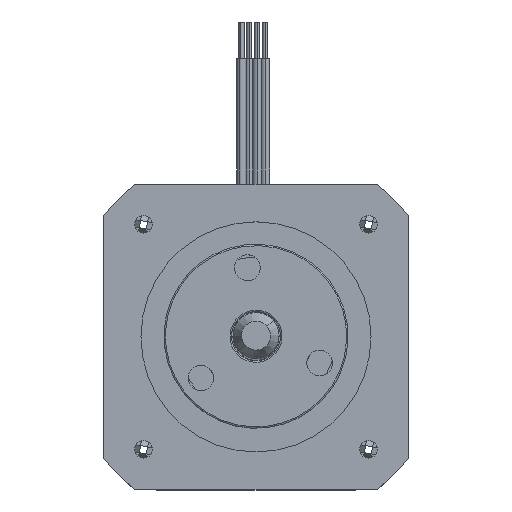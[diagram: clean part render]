
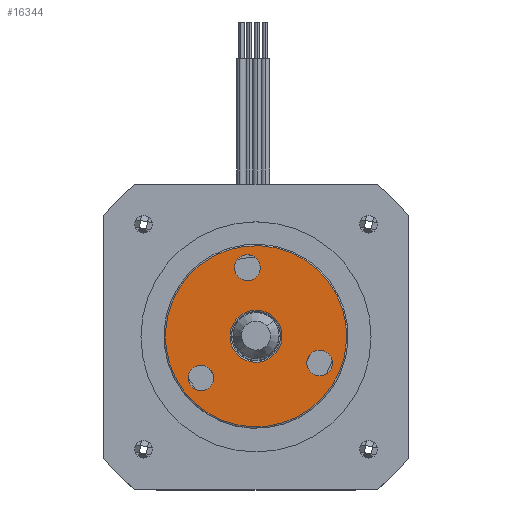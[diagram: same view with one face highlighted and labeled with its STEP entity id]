
A CAD part, top view. The second image highlights one B-rep face of the part: STEP entity #16344.
In plain terms, the highlighted planar face has unit normal (0, 0, 1).
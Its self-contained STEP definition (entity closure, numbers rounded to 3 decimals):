
#241 = ORIENTED_EDGE ( 'NONE', *, *, #18800, .T. ) ;
#318 = ORIENTED_EDGE ( 'NONE', *, *, #18589, .T. ) ;
#568 = ORIENTED_EDGE ( 'NONE', *, *, #18567, .T. ) ;
#594 = ORIENTED_EDGE ( 'NONE', *, *, #18140, .T. ) ;
#655 = ORIENTED_EDGE ( 'NONE', *, *, #18485, .T. ) ;
#664 = ORIENTED_EDGE ( 'NONE', *, *, #18493, .T. ) ;
#698 = ORIENTED_EDGE ( 'NONE', *, *, #18375, .T. ) ;
#1018 = ORIENTED_EDGE ( 'NONE', *, *, #18486, .T. ) ;
#1082 = ORIENTED_EDGE ( 'NONE', *, *, #18645, .T. ) ;
#1129 = ORIENTED_EDGE ( 'NONE', *, *, #18576, .T. ) ;
#2336 = CARTESIAN_POINT ( 'NONE',  ( 11.62, -4.039, 76.184 ) ) ;
#2568 = CARTESIAN_POINT ( 'NONE',  ( -1.877, 8.666, 76.184 ) ) ;
#2569 = CARTESIAN_POINT ( 'NONE',  ( -4.75, -6.095, 76.184 ) ) ;
#2596 = CARTESIAN_POINT ( 'NONE',  ( 8.087, -4.483, 76.184 ) ) ;
#2627 = CARTESIAN_POINT ( 'NONE',  ( 1.655, 9.109, 76.184 ) ) ;
#2632 = CARTESIAN_POINT ( 'NONE',  ( 13.478, 0.994, 76.184 ) ) ;
#2635 = CARTESIAN_POINT ( 'NONE',  ( 4.638, -0.116, 76.184 ) ) ;
#2640 = CARTESIAN_POINT ( 'NONE',  ( -11.327, -2.121, 76.184 ) ) ;
#2661 = CARTESIAN_POINT ( 'NONE',  ( -8.282, -6.538, 76.184 ) ) ;
#3366 = CARTESIAN_POINT ( 'NONE',  ( -6.516, -6.317, 76.184 ) ) ;
#3373 = DIRECTION ( 'NONE',  ( 0., 0., -1. ) ) ;
#3374 = DIRECTION ( 'NONE',  ( -0.992, -0.125, 0. ) ) ;
#3706 = CARTESIAN_POINT ( 'NONE',  ( 1.076, -0.563, 76.184 ) ) ;
#3707 = DIRECTION ( 'NONE',  ( 0., 0., 1. ) ) ;
#3708 = DIRECTION ( 'NONE',  ( -0.992, -0.125, 0. ) ) ;
#3709 = CARTESIAN_POINT ( 'NONE',  ( 9.854, -4.261, 76.184 ) ) ;
#3710 = DIRECTION ( 'NONE',  ( 0., 0., -1. ) ) ;
#3711 = DIRECTION ( 'NONE',  ( -0.992, -0.125, 0. ) ) ;
#3727 = CARTESIAN_POINT ( 'NONE',  ( 1.076, -0.563, 76.184 ) ) ;
#3731 = DIRECTION ( 'NONE',  ( 0., 0., -1. ) ) ;
#3732 = DIRECTION ( 'NONE',  ( -0.992, -0.125, 0. ) ) ;
#3990 = CARTESIAN_POINT ( 'NONE',  ( -0.111, 8.887, 76.184 ) ) ;
#3991 = DIRECTION ( 'NONE',  ( 0., 0., -1. ) ) ;
#3992 = DIRECTION ( 'NONE',  ( -0.992, -0.125, 0. ) ) ;
#4017 = CARTESIAN_POINT ( 'NONE',  ( 1.076, -0.563, 76.184 ) ) ;
#4018 = DIRECTION ( 'NONE',  ( 0., 0., -1. ) ) ;
#4019 = DIRECTION ( 'NONE',  ( -0.992, -0.125, 0. ) ) ;
#4112 = CARTESIAN_POINT ( 'NONE',  ( 9.854, -4.261, 76.184 ) ) ;
#4116 = DIRECTION ( 'NONE',  ( 0., 0., -1. ) ) ;
#4117 = DIRECTION ( 'NONE',  ( -0.992, -0.125, 0. ) ) ;
#4401 = CARTESIAN_POINT ( 'NONE',  ( -6.516, -6.317, 76.184 ) ) ;
#4402 = DIRECTION ( 'NONE',  ( 0., 0., -1. ) ) ;
#4403 = DIRECTION ( 'NONE',  ( -0.992, -0.125, 0. ) ) ;
#4674 = PLANE ( 'NONE',  #10229 ) ;
#4675 = CARTESIAN_POINT ( 'NONE',  ( 1.076, -0.563, 76.184 ) ) ;
#4676 = DIRECTION ( 'NONE',  ( 0., 0., -1. ) ) ;
#4677 = DIRECTION ( 'NONE',  ( -0.992, -0.125, 0. ) ) ;
#6038 = AXIS2_PLACEMENT_3D ( 'NONE', #3366, #3373, #3374 ) ;
#6418 = CARTESIAN_POINT ( 'NONE',  ( -2.487, -1.011, 76.184 ) ) ;
#8059 = CIRCLE ( 'NONE', #10593, 1.78 ) ;
#8061 = CIRCLE ( 'NONE', #10599, 3.59 ) ;
#8101 = CIRCLE ( 'NONE', #10694, 3.59 ) ;
#8126 = CIRCLE ( 'NONE', #10653, 12.5 ) ;
#8147 = CIRCLE ( 'NONE', #10645, 1.78 ) ;
#8161 = CIRCLE ( 'NONE', #14753, 1.78 ) ;
#8180 = CIRCLE ( 'NONE', #10620, 1.78 ) ;
#9302 = CARTESIAN_POINT ( 'NONE',  ( 1.076, -0.563, 76.184 ) ) ;
#9303 = DIRECTION ( 'NONE',  ( 0., 0., 1. ) ) ;
#9304 = DIRECTION ( 'NONE',  ( -0.992, -0.125, 0. ) ) ;
#10181 = FACE_BOUND ( 'NONE', #14519, .T. ) ;
#10229 = AXIS2_PLACEMENT_3D ( 'NONE', #4675, #4676, #4677 ) ;
#10339 = FACE_BOUND ( 'NONE', #14635, .T. ) ;
#10350 = FACE_BOUND ( 'NONE', #14402, .T. ) ;
#10428 = FACE_OUTER_BOUND ( 'NONE', #14653, .T. ) ;
#10432 = FACE_BOUND ( 'NONE', #14563, .T. ) ;
#10593 = AXIS2_PLACEMENT_3D ( 'NONE', #4112, #4116, #4117 ) ;
#10599 = AXIS2_PLACEMENT_3D ( 'NONE', #4017, #4018, #4019 ) ;
#10620 = AXIS2_PLACEMENT_3D ( 'NONE', #3990, #3991, #3992 ) ;
#10645 = AXIS2_PLACEMENT_3D ( 'NONE', #3709, #3710, #3711 ) ;
#10653 = AXIS2_PLACEMENT_3D ( 'NONE', #3706, #3707, #3708 ) ;
#10694 = AXIS2_PLACEMENT_3D ( 'NONE', #3727, #3731, #3732 ) ;
#10723 = AXIS2_PLACEMENT_3D ( 'NONE', #9302, #9303, #9304 ) ;
#12773 = AXIS2_PLACEMENT_3D ( 'NONE', #13216, #13220, #13221 ) ;
#13216 = CARTESIAN_POINT ( 'NONE',  ( -0.111, 8.887, 76.184 ) ) ;
#13220 = DIRECTION ( 'NONE',  ( 0., 0., -1. ) ) ;
#13221 = DIRECTION ( 'NONE',  ( -0.992, -0.125, 0. ) ) ;
#14193 = VERTEX_POINT ( 'NONE', #2336 ) ;
#14395 = VERTEX_POINT ( 'NONE', #2568 ) ;
#14396 = VERTEX_POINT ( 'NONE', #2569 ) ;
#14402 = EDGE_LOOP ( 'NONE', ( #594, #568 ) ) ;
#14510 = VERTEX_POINT ( 'NONE', #2596 ) ;
#14519 = EDGE_LOOP ( 'NONE', ( #318, #1018 ) ) ;
#14561 = VERTEX_POINT ( 'NONE', #2627 ) ;
#14563 = EDGE_LOOP ( 'NONE', ( #1129, #664 ) ) ;
#14570 = VERTEX_POINT ( 'NONE', #2632 ) ;
#14579 = VERTEX_POINT ( 'NONE', #2635 ) ;
#14597 = VERTEX_POINT ( 'NONE', #2640 ) ;
#14635 = EDGE_LOOP ( 'NONE', ( #698, #1082 ) ) ;
#14648 = VERTEX_POINT ( 'NONE', #2661 ) ;
#14653 = EDGE_LOOP ( 'NONE', ( #655, #241 ) ) ;
#14753 = AXIS2_PLACEMENT_3D ( 'NONE', #4401, #4402, #4403 ) ;
#15624 = VERTEX_POINT ( 'NONE', #6418 ) ;
#15883 = CIRCLE ( 'NONE', #12773, 1.78 ) ;
#15930 = CIRCLE ( 'NONE', #6038, 1.78 ) ;
#16071 = CIRCLE ( 'NONE', #10723, 12.5 ) ;
#16344 = ADVANCED_FACE ( 'NONE', ( #10432, #10428, #10339, #10350, #10181 ), #4674, .F. ) ;
#18140 = EDGE_CURVE ( 'NONE', #14561, #14395, #15883, .T. ) ;
#18375 = EDGE_CURVE ( 'NONE', #14396, #14648, #15930, .T. ) ;
#18485 = EDGE_CURVE ( 'NONE', #14597, #14570, #8126, .T. ) ;
#18486 = EDGE_CURVE ( 'NONE', #14510, #14193, #8147, .T. ) ;
#18493 = EDGE_CURVE ( 'NONE', #14579, #15624, #8101, .T. ) ;
#18567 = EDGE_CURVE ( 'NONE', #14395, #14561, #8180, .T. ) ;
#18576 = EDGE_CURVE ( 'NONE', #15624, #14579, #8061, .T. ) ;
#18589 = EDGE_CURVE ( 'NONE', #14193, #14510, #8059, .T. ) ;
#18645 = EDGE_CURVE ( 'NONE', #14648, #14396, #8161, .T. ) ;
#18800 = EDGE_CURVE ( 'NONE', #14570, #14597, #16071, .T. ) ;
